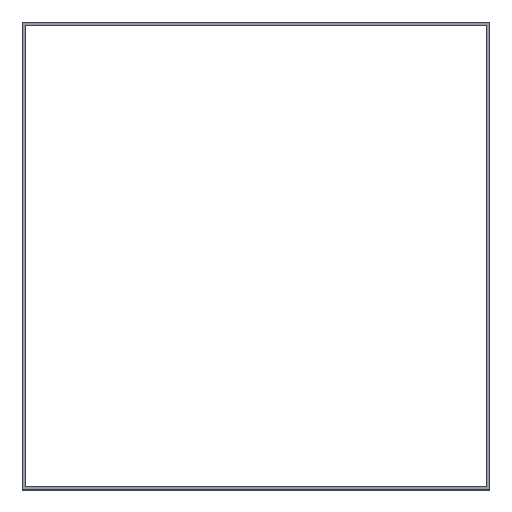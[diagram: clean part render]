
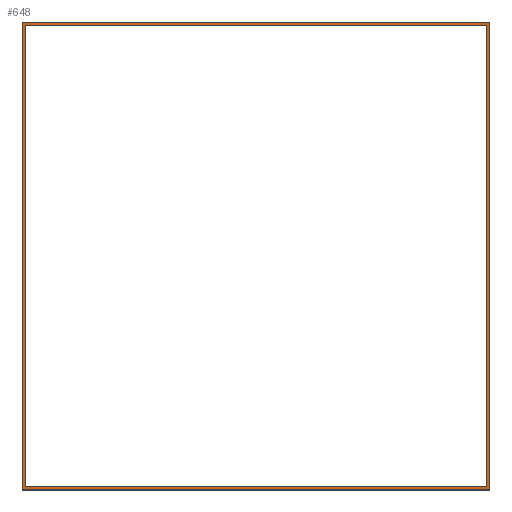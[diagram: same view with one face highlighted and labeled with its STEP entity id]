
A CAD part, top view. The second image highlights one B-rep face of the part: STEP entity #648.
In plain terms, the highlighted planar face has unit normal (0, 0, 1).
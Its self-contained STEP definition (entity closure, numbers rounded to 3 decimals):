
#24 = VERTEX_POINT('',#25);
#25 = CARTESIAN_POINT('',(841.,-841.,3.));
#32 = PLANE('',#33);
#33 = AXIS2_PLACEMENT_3D('',#34,#35,#36);
#34 = CARTESIAN_POINT('',(841.,-841.,0.));
#35 = DIRECTION('',(-0.,1.,-0.));
#36 = DIRECTION('',(1.,0.,0.));
#44 = PLANE('',#45);
#45 = AXIS2_PLACEMENT_3D('',#46,#47,#48);
#46 = CARTESIAN_POINT('',(841.,841.,0.));
#47 = DIRECTION('',(-1.,-0.,-0.));
#48 = DIRECTION('',(0.,1.,0.));
#56 = EDGE_CURVE('',#24,#57,#59,.T.);
#57 = VERTEX_POINT('',#58);
#58 = CARTESIAN_POINT('',(-841.,-841.,3.));
#59 = SURFACE_CURVE('',#60,(#64,#71),.PCURVE_S1.);
#60 = LINE('',#61,#62);
#61 = CARTESIAN_POINT('',(841.,-841.,3.));
#62 = VECTOR('',#63,1.);
#63 = DIRECTION('',(-1.,-0.,-0.));
#64 = PCURVE('',#32,#65);
#65 = DEFINITIONAL_REPRESENTATION('',(#66),#70);
#66 = LINE('',#67,#68);
#67 = CARTESIAN_POINT('',(-0.,-3.));
#68 = VECTOR('',#69,1.);
#69 = DIRECTION('',(-1.,0.));
#70 = ( GEOMETRIC_REPRESENTATION_CONTEXT(2) 
PARAMETRIC_REPRESENTATION_CONTEXT() REPRESENTATION_CONTEXT('2D SPACE',''
  ) );
#71 = PCURVE('',#72,#77);
#72 = PLANE('',#73);
#73 = AXIS2_PLACEMENT_3D('',#74,#75,#76);
#74 = CARTESIAN_POINT('',(0.,0.,3.));
#75 = DIRECTION('',(-0.,-0.,1.));
#76 = DIRECTION('',(1.,0.,0.));
#77 = DEFINITIONAL_REPRESENTATION('',(#78),#82);
#78 = LINE('',#79,#80);
#79 = CARTESIAN_POINT('',(841.,-841.));
#80 = VECTOR('',#81,1.);
#81 = DIRECTION('',(-1.,0.));
#82 = ( GEOMETRIC_REPRESENTATION_CONTEXT(2) 
PARAMETRIC_REPRESENTATION_CONTEXT() REPRESENTATION_CONTEXT('2D SPACE',''
  ) );
#100 = PLANE('',#101);
#101 = AXIS2_PLACEMENT_3D('',#102,#103,#104);
#102 = CARTESIAN_POINT('',(-841.,-841.,0.));
#103 = DIRECTION('',(1.,-0.,-0.));
#104 = DIRECTION('',(0.,-1.,0.));
#142 = EDGE_CURVE('',#57,#143,#145,.T.);
#143 = VERTEX_POINT('',#144);
#144 = CARTESIAN_POINT('',(-841.,841.,3.));
#145 = SURFACE_CURVE('',#146,(#150,#157),.PCURVE_S1.);
#146 = LINE('',#147,#148);
#147 = CARTESIAN_POINT('',(-841.,-841.,3.));
#148 = VECTOR('',#149,1.);
#149 = DIRECTION('',(-0.,1.,-0.));
#150 = PCURVE('',#100,#151);
#151 = DEFINITIONAL_REPRESENTATION('',(#152),#156);
#152 = LINE('',#153,#154);
#153 = CARTESIAN_POINT('',(-0.,-3.));
#154 = VECTOR('',#155,1.);
#155 = DIRECTION('',(-1.,0.));
#156 = ( GEOMETRIC_REPRESENTATION_CONTEXT(2) 
PARAMETRIC_REPRESENTATION_CONTEXT() REPRESENTATION_CONTEXT('2D SPACE',''
  ) );
#157 = PCURVE('',#72,#158);
#158 = DEFINITIONAL_REPRESENTATION('',(#159),#163);
#159 = LINE('',#160,#161);
#160 = CARTESIAN_POINT('',(-841.,-841.));
#161 = VECTOR('',#162,1.);
#162 = DIRECTION('',(-0.,1.));
#163 = ( GEOMETRIC_REPRESENTATION_CONTEXT(2) 
PARAMETRIC_REPRESENTATION_CONTEXT() REPRESENTATION_CONTEXT('2D SPACE',''
  ) );
#181 = PLANE('',#182);
#182 = AXIS2_PLACEMENT_3D('',#183,#184,#185);
#183 = CARTESIAN_POINT('',(-841.,841.,0.));
#184 = DIRECTION('',(-0.,-1.,-0.));
#185 = DIRECTION('',(-1.,0.,0.));
#218 = EDGE_CURVE('',#143,#219,#221,.T.);
#219 = VERTEX_POINT('',#220);
#220 = CARTESIAN_POINT('',(841.,841.,3.));
#221 = SURFACE_CURVE('',#222,(#226,#233),.PCURVE_S1.);
#222 = LINE('',#223,#224);
#223 = CARTESIAN_POINT('',(-841.,841.,3.));
#224 = VECTOR('',#225,1.);
#225 = DIRECTION('',(1.,-0.,-0.));
#226 = PCURVE('',#181,#227);
#227 = DEFINITIONAL_REPRESENTATION('',(#228),#232);
#228 = LINE('',#229,#230);
#229 = CARTESIAN_POINT('',(-0.,-3.));
#230 = VECTOR('',#231,1.);
#231 = DIRECTION('',(-1.,0.));
#232 = ( GEOMETRIC_REPRESENTATION_CONTEXT(2) 
PARAMETRIC_REPRESENTATION_CONTEXT() REPRESENTATION_CONTEXT('2D SPACE',''
  ) );
#233 = PCURVE('',#72,#234);
#234 = DEFINITIONAL_REPRESENTATION('',(#235),#239);
#235 = LINE('',#236,#237);
#236 = CARTESIAN_POINT('',(-841.,841.));
#237 = VECTOR('',#238,1.);
#238 = DIRECTION('',(1.,-0.));
#239 = ( GEOMETRIC_REPRESENTATION_CONTEXT(2) 
PARAMETRIC_REPRESENTATION_CONTEXT() REPRESENTATION_CONTEXT('2D SPACE',''
  ) );
#289 = EDGE_CURVE('',#219,#24,#290,.T.);
#290 = SURFACE_CURVE('',#291,(#295,#302),.PCURVE_S1.);
#291 = LINE('',#292,#293);
#292 = CARTESIAN_POINT('',(841.,841.,3.));
#293 = VECTOR('',#294,1.);
#294 = DIRECTION('',(-0.,-1.,-0.));
#295 = PCURVE('',#44,#296);
#296 = DEFINITIONAL_REPRESENTATION('',(#297),#301);
#297 = LINE('',#298,#299);
#298 = CARTESIAN_POINT('',(-0.,-3.));
#299 = VECTOR('',#300,1.);
#300 = DIRECTION('',(-1.,0.));
#301 = ( GEOMETRIC_REPRESENTATION_CONTEXT(2) 
PARAMETRIC_REPRESENTATION_CONTEXT() REPRESENTATION_CONTEXT('2D SPACE',''
  ) );
#302 = PCURVE('',#72,#303);
#303 = DEFINITIONAL_REPRESENTATION('',(#304),#308);
#304 = LINE('',#305,#306);
#305 = CARTESIAN_POINT('',(841.,841.));
#306 = VECTOR('',#307,1.);
#307 = DIRECTION('',(-0.,-1.));
#308 = ( GEOMETRIC_REPRESENTATION_CONTEXT(2) 
PARAMETRIC_REPRESENTATION_CONTEXT() REPRESENTATION_CONTEXT('2D SPACE',''
  ) );
#338 = VERTEX_POINT('',#339);
#339 = CARTESIAN_POINT('',(830.,-830.,3.));
#346 = PLANE('',#347);
#347 = AXIS2_PLACEMENT_3D('',#348,#349,#350);
#348 = CARTESIAN_POINT('',(830.,-830.,0.));
#349 = DIRECTION('',(-0.,1.,-0.));
#350 = DIRECTION('',(1.,0.,0.));
#358 = PLANE('',#359);
#359 = AXIS2_PLACEMENT_3D('',#360,#361,#362);
#360 = CARTESIAN_POINT('',(830.,830.,0.));
#361 = DIRECTION('',(-1.,-0.,-0.));
#362 = DIRECTION('',(0.,1.,0.));
#370 = EDGE_CURVE('',#338,#371,#373,.T.);
#371 = VERTEX_POINT('',#372);
#372 = CARTESIAN_POINT('',(-830.,-830.,3.));
#373 = SURFACE_CURVE('',#374,(#378,#385),.PCURVE_S1.);
#374 = LINE('',#375,#376);
#375 = CARTESIAN_POINT('',(830.,-830.,3.));
#376 = VECTOR('',#377,1.);
#377 = DIRECTION('',(-1.,-0.,-0.));
#378 = PCURVE('',#346,#379);
#379 = DEFINITIONAL_REPRESENTATION('',(#380),#384);
#380 = LINE('',#381,#382);
#381 = CARTESIAN_POINT('',(-0.,-3.));
#382 = VECTOR('',#383,1.);
#383 = DIRECTION('',(-1.,0.));
#384 = ( GEOMETRIC_REPRESENTATION_CONTEXT(2) 
PARAMETRIC_REPRESENTATION_CONTEXT() REPRESENTATION_CONTEXT('2D SPACE',''
  ) );
#385 = PCURVE('',#72,#386);
#386 = DEFINITIONAL_REPRESENTATION('',(#387),#391);
#387 = LINE('',#388,#389);
#388 = CARTESIAN_POINT('',(830.,-830.));
#389 = VECTOR('',#390,1.);
#390 = DIRECTION('',(-1.,0.));
#391 = ( GEOMETRIC_REPRESENTATION_CONTEXT(2) 
PARAMETRIC_REPRESENTATION_CONTEXT() REPRESENTATION_CONTEXT('2D SPACE',''
  ) );
#409 = PLANE('',#410);
#410 = AXIS2_PLACEMENT_3D('',#411,#412,#413);
#411 = CARTESIAN_POINT('',(-830.,-830.,0.));
#412 = DIRECTION('',(1.,-0.,-0.));
#413 = DIRECTION('',(0.,-1.,0.));
#446 = EDGE_CURVE('',#371,#447,#449,.T.);
#447 = VERTEX_POINT('',#448);
#448 = CARTESIAN_POINT('',(-830.,830.,3.));
#449 = SURFACE_CURVE('',#450,(#454,#461),.PCURVE_S1.);
#450 = LINE('',#451,#452);
#451 = CARTESIAN_POINT('',(-830.,-830.,3.));
#452 = VECTOR('',#453,1.);
#453 = DIRECTION('',(-0.,1.,-0.));
#454 = PCURVE('',#409,#455);
#455 = DEFINITIONAL_REPRESENTATION('',(#456),#460);
#456 = LINE('',#457,#458);
#457 = CARTESIAN_POINT('',(-0.,-3.));
#458 = VECTOR('',#459,1.);
#459 = DIRECTION('',(-1.,0.));
#460 = ( GEOMETRIC_REPRESENTATION_CONTEXT(2) 
PARAMETRIC_REPRESENTATION_CONTEXT() REPRESENTATION_CONTEXT('2D SPACE',''
  ) );
#461 = PCURVE('',#72,#462);
#462 = DEFINITIONAL_REPRESENTATION('',(#463),#467);
#463 = LINE('',#464,#465);
#464 = CARTESIAN_POINT('',(-830.,-830.));
#465 = VECTOR('',#466,1.);
#466 = DIRECTION('',(-0.,1.));
#467 = ( GEOMETRIC_REPRESENTATION_CONTEXT(2) 
PARAMETRIC_REPRESENTATION_CONTEXT() REPRESENTATION_CONTEXT('2D SPACE',''
  ) );
#485 = PLANE('',#486);
#486 = AXIS2_PLACEMENT_3D('',#487,#488,#489);
#487 = CARTESIAN_POINT('',(-830.,830.,0.));
#488 = DIRECTION('',(-0.,-1.,-0.));
#489 = DIRECTION('',(-1.,0.,0.));
#522 = EDGE_CURVE('',#447,#523,#525,.T.);
#523 = VERTEX_POINT('',#524);
#524 = CARTESIAN_POINT('',(830.,830.,3.));
#525 = SURFACE_CURVE('',#526,(#530,#537),.PCURVE_S1.);
#526 = LINE('',#527,#528);
#527 = CARTESIAN_POINT('',(-830.,830.,3.));
#528 = VECTOR('',#529,1.);
#529 = DIRECTION('',(1.,-0.,-0.));
#530 = PCURVE('',#485,#531);
#531 = DEFINITIONAL_REPRESENTATION('',(#532),#536);
#532 = LINE('',#533,#534);
#533 = CARTESIAN_POINT('',(-0.,-3.));
#534 = VECTOR('',#535,1.);
#535 = DIRECTION('',(-1.,0.));
#536 = ( GEOMETRIC_REPRESENTATION_CONTEXT(2) 
PARAMETRIC_REPRESENTATION_CONTEXT() REPRESENTATION_CONTEXT('2D SPACE',''
  ) );
#537 = PCURVE('',#72,#538);
#538 = DEFINITIONAL_REPRESENTATION('',(#539),#543);
#539 = LINE('',#540,#541);
#540 = CARTESIAN_POINT('',(-830.,830.));
#541 = VECTOR('',#542,1.);
#542 = DIRECTION('',(1.,-0.));
#543 = ( GEOMETRIC_REPRESENTATION_CONTEXT(2) 
PARAMETRIC_REPRESENTATION_CONTEXT() REPRESENTATION_CONTEXT('2D SPACE',''
  ) );
#593 = EDGE_CURVE('',#523,#338,#594,.T.);
#594 = SURFACE_CURVE('',#595,(#599,#606),.PCURVE_S1.);
#595 = LINE('',#596,#597);
#596 = CARTESIAN_POINT('',(830.,830.,3.));
#597 = VECTOR('',#598,1.);
#598 = DIRECTION('',(-0.,-1.,-0.));
#599 = PCURVE('',#358,#600);
#600 = DEFINITIONAL_REPRESENTATION('',(#601),#605);
#601 = LINE('',#602,#603);
#602 = CARTESIAN_POINT('',(-0.,-3.));
#603 = VECTOR('',#604,1.);
#604 = DIRECTION('',(-1.,0.));
#605 = ( GEOMETRIC_REPRESENTATION_CONTEXT(2) 
PARAMETRIC_REPRESENTATION_CONTEXT() REPRESENTATION_CONTEXT('2D SPACE',''
  ) );
#606 = PCURVE('',#72,#607);
#607 = DEFINITIONAL_REPRESENTATION('',(#608),#612);
#608 = LINE('',#609,#610);
#609 = CARTESIAN_POINT('',(830.,830.));
#610 = VECTOR('',#611,1.);
#611 = DIRECTION('',(-0.,-1.));
#612 = ( GEOMETRIC_REPRESENTATION_CONTEXT(2) 
PARAMETRIC_REPRESENTATION_CONTEXT() REPRESENTATION_CONTEXT('2D SPACE',''
  ) );
#648 = ADVANCED_FACE('',(#649,#655),#72,.T.);
#649 = FACE_BOUND('',#650,.F.);
#650 = EDGE_LOOP('',(#651,#652,#653,#654));
#651 = ORIENTED_EDGE('',*,*,#56,.T.);
#652 = ORIENTED_EDGE('',*,*,#142,.T.);
#653 = ORIENTED_EDGE('',*,*,#218,.T.);
#654 = ORIENTED_EDGE('',*,*,#289,.T.);
#655 = FACE_BOUND('',#656,.T.);
#656 = EDGE_LOOP('',(#657,#658,#659,#660));
#657 = ORIENTED_EDGE('',*,*,#370,.T.);
#658 = ORIENTED_EDGE('',*,*,#446,.T.);
#659 = ORIENTED_EDGE('',*,*,#522,.T.);
#660 = ORIENTED_EDGE('',*,*,#593,.T.);
